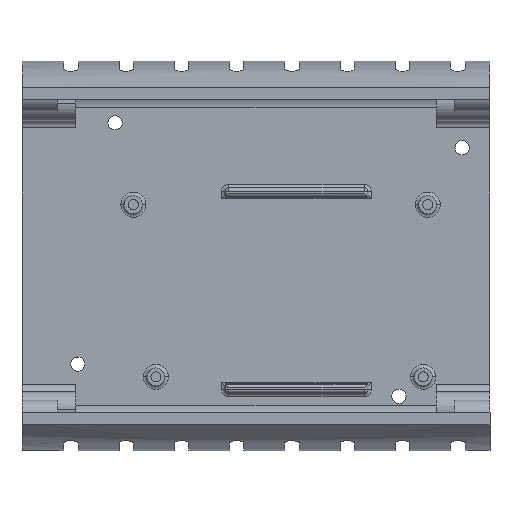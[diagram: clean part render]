
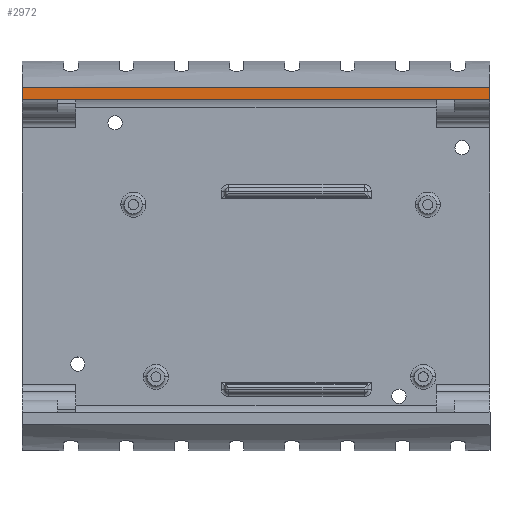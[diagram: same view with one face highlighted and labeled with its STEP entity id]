
A CAD part, top view. The second image highlights one B-rep face of the part: STEP entity #2972.
In plain terms, the highlighted planar face has unit normal (0, 0, 1).
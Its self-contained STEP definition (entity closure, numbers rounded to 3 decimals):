
#218 = LINE ( 'NONE', #1739, #7610 ) ;
#499 = CARTESIAN_POINT ( 'NONE',  ( -71.046, 62.73, 60. ) ) ;
#579 = ORIENTED_EDGE ( 'NONE', *, *, #8051, .F. ) ;
#1739 = CARTESIAN_POINT ( 'NONE',  ( -71.046, 62.73, 60. ) ) ;
#2307 = LINE ( 'NONE', #6382, #9797 ) ;
#2633 = FACE_OUTER_BOUND ( 'NONE', #7556, .T. ) ;
#2800 = EDGE_CURVE ( 'NONE', #7933, #3256, #5104, .T. ) ;
#2972 = ADVANCED_FACE ( 'NONE', ( #2633 ), #10183, .F. ) ;
#3060 = LINE ( 'NONE', #7320, #6695 ) ;
#3256 = VERTEX_POINT ( 'NONE', #5809 ) ;
#4584 = VERTEX_POINT ( 'NONE', #7503 ) ;
#4667 = ORIENTED_EDGE ( 'NONE', *, *, #7830, .T. ) ;
#4884 = DIRECTION ( 'NONE',  ( 0., 1., 0. ) ) ;
#4953 = ORIENTED_EDGE ( 'NONE', *, *, #4994, .T. ) ;
#4994 = EDGE_CURVE ( 'NONE', #4584, #8745, #3060, .T. ) ;
#5025 = CARTESIAN_POINT ( 'NONE',  ( 60.16, 66.23, 60. ) ) ;
#5104 = LINE ( 'NONE', #6160, #7414 ) ;
#5276 = CARTESIAN_POINT ( 'NONE',  ( -71.046, 62.73, 60. ) ) ;
#5809 = CARTESIAN_POINT ( 'NONE',  ( -71.046, 66.23, 60. ) ) ;
#5948 = DIRECTION ( 'NONE',  ( 1., 0., 0. ) ) ;
#6068 = DIRECTION ( 'NONE',  ( -1., 0., 0. ) ) ;
#6160 = CARTESIAN_POINT ( 'NONE',  ( -71.046, 62.73, 60. ) ) ;
#6382 = CARTESIAN_POINT ( 'NONE',  ( -71.046, 66.23, 60. ) ) ;
#6509 = AXIS2_PLACEMENT_3D ( 'NONE', #5276, #9405, #6068 ) ;
#6695 = VECTOR ( 'NONE', #4884, 1000. ) ;
#7320 = CARTESIAN_POINT ( 'NONE',  ( 60.16, 62.73, 60. ) ) ;
#7414 = VECTOR ( 'NONE', #9496, 1000. ) ;
#7503 = CARTESIAN_POINT ( 'NONE',  ( 60.16, 62.73, 60. ) ) ;
#7556 = EDGE_LOOP ( 'NONE', ( #10395, #4667, #4953, #579 ) ) ;
#7610 = VECTOR ( 'NONE', #5948, 1000. ) ;
#7830 = EDGE_CURVE ( 'NONE', #7933, #4584, #218, .T. ) ;
#7933 = VERTEX_POINT ( 'NONE', #499 ) ;
#8051 = EDGE_CURVE ( 'NONE', #3256, #8745, #2307, .T. ) ;
#8745 = VERTEX_POINT ( 'NONE', #5025 ) ;
#9405 = DIRECTION ( 'NONE',  ( 0., 0., -1. ) ) ;
#9496 = DIRECTION ( 'NONE',  ( 0., 1., 0. ) ) ;
#9784 = DIRECTION ( 'NONE',  ( 1., 0., 0. ) ) ;
#9797 = VECTOR ( 'NONE', #9784, 1000. ) ;
#10183 = PLANE ( 'NONE',  #6509 ) ;
#10395 = ORIENTED_EDGE ( 'NONE', *, *, #2800, .F. ) ;
